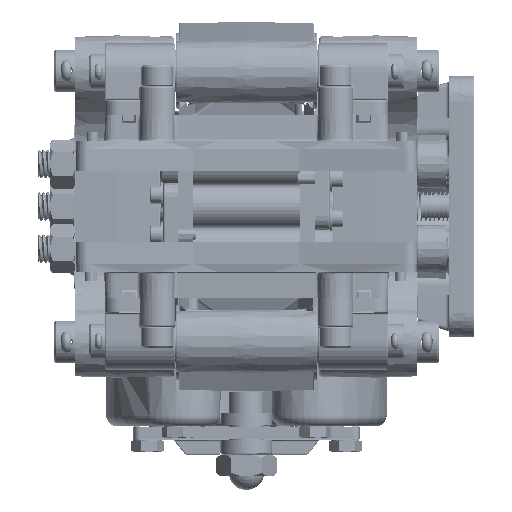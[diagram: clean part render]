
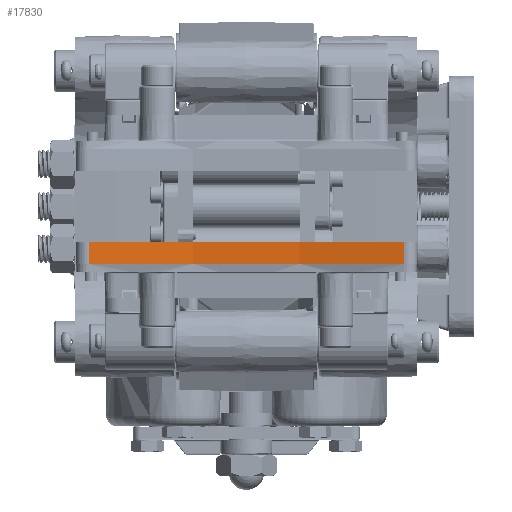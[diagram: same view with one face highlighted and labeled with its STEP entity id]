
A CAD part, left-side view. The second image highlights one B-rep face of the part: STEP entity #17830.
In plain terms, the highlighted cylindrical face has radius 317.5 mm (diameter 635 mm), a partial arc.
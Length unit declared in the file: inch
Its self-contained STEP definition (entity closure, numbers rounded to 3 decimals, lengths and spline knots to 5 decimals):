
#4042 = EDGE_CURVE ( 'NONE', #139777, #146019, #78302, .T. ) ;
#9880 = CARTESIAN_POINT ( 'NONE',  ( -2.81549, -2.79064, -1.01 ) ) ;
#12075 = ORIENTED_EDGE ( 'NONE', *, *, #144796, .T. ) ;
#14607 = VERTEX_POINT ( 'NONE', #30856 ) ;
#17830 = ADVANCED_FACE ( 'NONE', ( #147412 ), #21265, .F. ) ;
#19047 = CIRCLE ( 'NONE', #108167, 12.5 ) ;
#21060 = CIRCLE ( 'NONE', #113167, 12.5 ) ;
#21265 = CYLINDRICAL_SURFACE ( 'NONE', #125974, 12.5 ) ;
#26561 = ORIENTED_EDGE ( 'NONE', *, *, #4042, .T. ) ;
#30856 = CARTESIAN_POINT ( 'NONE',  ( -2.81549, 2.79064, -0.635 ) ) ;
#31206 = ORIENTED_EDGE ( 'NONE', *, *, #62103, .F. ) ;
#34801 = DIRECTION ( 'NONE',  ( 0., 0., 1. ) ) ;
#37871 = CARTESIAN_POINT ( 'NONE',  ( -15., 0., -0.635 ) ) ;
#42113 = VECTOR ( 'NONE', #68265, 39.37008 ) ;
#42122 = CARTESIAN_POINT ( 'NONE',  ( -2.81549, 2.79064, -1.01 ) ) ;
#49799 = VECTOR ( 'NONE', #66577, 39.37008 ) ;
#53181 = CARTESIAN_POINT ( 'NONE',  ( -2.81549, -2.79064, -1.01 ) ) ;
#60776 = ORIENTED_EDGE ( 'NONE', *, *, #86631, .F. ) ;
#62103 = EDGE_CURVE ( 'NONE', #134726, #14607, #136751, .T. ) ;
#66577 = DIRECTION ( 'NONE',  ( 0., 0., 1. ) ) ;
#68265 = DIRECTION ( 'NONE',  ( 0., 0., 1. ) ) ;
#77043 = CARTESIAN_POINT ( 'NONE',  ( -15., 0., -1.01 ) ) ;
#77504 = DIRECTION ( 'NONE',  ( 0., 0., 1. ) ) ;
#78302 = LINE ( 'NONE', #9880, #49799 ) ;
#86631 = EDGE_CURVE ( 'NONE', #139777, #134726, #19047, .T. ) ;
#96897 = EDGE_LOOP ( 'NONE', ( #12075, #31206, #60776, #26561 ) ) ;
#99018 = CARTESIAN_POINT ( 'NONE',  ( -2.81549, -2.79064, -0.635 ) ) ;
#108167 = AXIS2_PLACEMENT_3D ( 'NONE', #77043, #133830, #119407 ) ;
#113167 = AXIS2_PLACEMENT_3D ( 'NONE', #37871, #77504, #147815 ) ;
#119407 = DIRECTION ( 'NONE',  ( 0., -1., 0. ) ) ;
#121240 = CARTESIAN_POINT ( 'NONE',  ( -15., 0., -1.01 ) ) ;
#125974 = AXIS2_PLACEMENT_3D ( 'NONE', #121240, #34801, #131180 ) ;
#131180 = DIRECTION ( 'NONE',  ( 0., -1., 0. ) ) ;
#133830 = DIRECTION ( 'NONE',  ( 0., 0., 1. ) ) ;
#134726 = VERTEX_POINT ( 'NONE', #165321 ) ;
#136751 = LINE ( 'NONE', #42122, #42113 ) ;
#139777 = VERTEX_POINT ( 'NONE', #53181 ) ;
#144796 = EDGE_CURVE ( 'NONE', #146019, #14607, #21060, .T. ) ;
#146019 = VERTEX_POINT ( 'NONE', #99018 ) ;
#147412 = FACE_OUTER_BOUND ( 'NONE', #96897, .T. ) ;
#147815 = DIRECTION ( 'NONE',  ( 0., -1., 0. ) ) ;
#165321 = CARTESIAN_POINT ( 'NONE',  ( -2.81549, 2.79064, -1.01 ) ) ;
